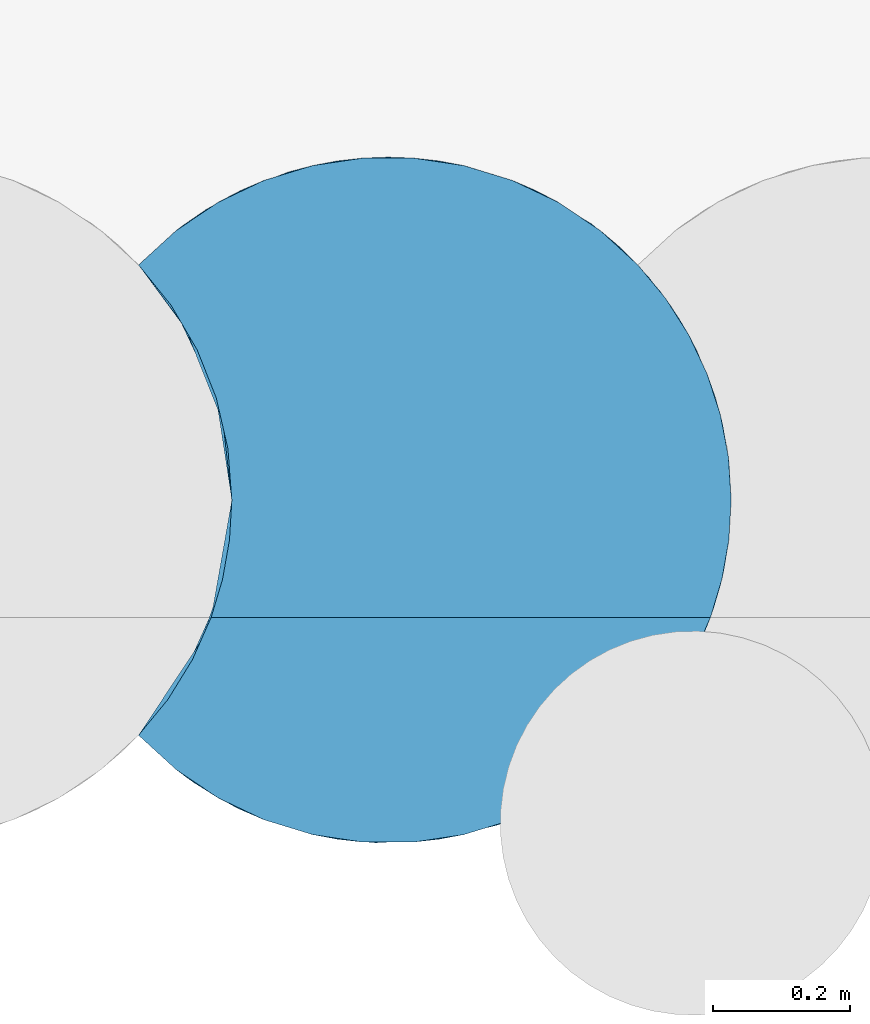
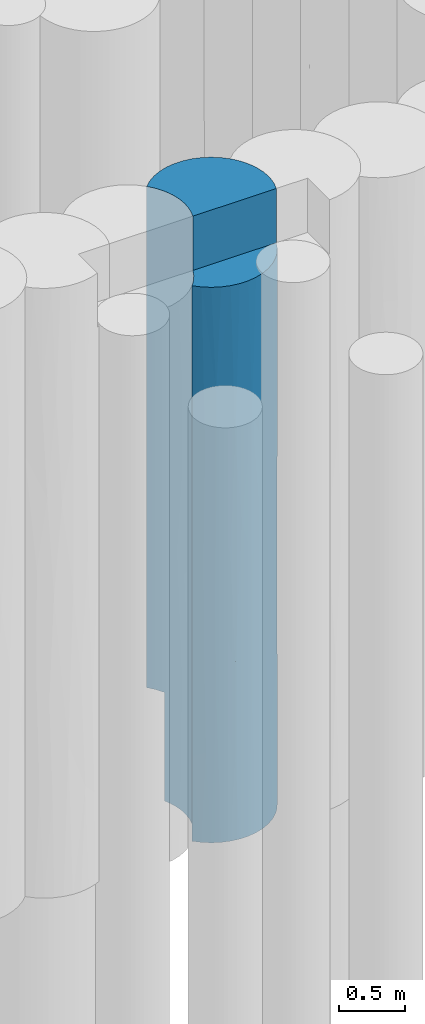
# One storey, part 48 of 104: 1 pile.
"""IFC2X3 building model written with IfcOpenShell, lengths in millimetres."""

from ifc_helpers import new_model, entity, si_unit, converted_unit, derived_unit, direction, frame, origin, place, context, subcontext, project, spatial, faceted_brep, source, transform, mapped, material, element, save


model = new_model("IFC2X3")

# Units and contexts
model_context = context("Model", 3, precision=0.01, world=origin(), true_north=direction((6.12303176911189e-17, 1.0)))
body_context = subcontext(model_context, "Body", "Model", "MODEL_VIEW")
ifc_project = project(units=[si_unit("LENGTHUNIT", "METRE", prefix="MILLI"), si_unit("AREAUNIT", "SQUARE_METRE", prefix="MILLI"), si_unit("VOLUMEUNIT", "CUBIC_METRE"), converted_unit("PLANEANGLEUNIT", "DEGREE", entity("IfcRatioMeasure", 0.0174532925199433), si_unit("PLANEANGLEUNIT", "RADIAN"), dimensions=[0, 0, 0, 0, 0, 0, 0]), si_unit("MASSUNIT", "GRAM", prefix="KILO"), derived_unit("MASSDENSITYUNIT", [(si_unit("MASSUNIT", "GRAM", prefix="KILO"), 1), (si_unit("LENGTHUNIT", "METRE"), -3)]), derived_unit("MOMENTOFINERTIAUNIT", [(si_unit("LENGTHUNIT", "METRE"), 4)]), si_unit("TIMEUNIT", "SECOND"), si_unit("FREQUENCYUNIT", "HERTZ"), si_unit("THERMODYNAMICTEMPERATUREUNIT", "DEGREE_CELSIUS"), derived_unit("THERMALTRANSMITTANCEUNIT", [(si_unit("MASSUNIT", "GRAM", prefix="KILO"), 1), (si_unit("THERMODYNAMICTEMPERATUREUNIT", "KELVIN"), -1), (si_unit("TIMEUNIT", "SECOND"), -3)]), derived_unit("VOLUMETRICFLOWRATEUNIT", [(si_unit("LENGTHUNIT", "METRE"), 3), (si_unit("TIMEUNIT", "SECOND"), -1)]), si_unit("ELECTRICCURRENTUNIT", "AMPERE"), si_unit("ELECTRICVOLTAGEUNIT", "VOLT"), si_unit("POWERUNIT", "WATT"), si_unit("FORCEUNIT", "NEWTON", prefix="KILO"), si_unit("ILLUMINANCEUNIT", "LUX"), si_unit("LUMINOUSFLUXUNIT", "LUMEN"), si_unit("LUMINOUSINTENSITYUNIT", "CANDELA"), derived_unit("USERDEFINED", [(si_unit("MASSUNIT", "GRAM", prefix="KILO"), -1), (si_unit("LENGTHUNIT", "METRE"), -2), (si_unit("TIMEUNIT", "SECOND"), 3), (si_unit("LUMINOUSFLUXUNIT", "LUMEN"), 1)]), derived_unit("LINEARVELOCITYUNIT", [(si_unit("LENGTHUNIT", "METRE"), 1), (si_unit("TIMEUNIT", "SECOND"), -1)]), si_unit("PRESSUREUNIT", "PASCAL"), derived_unit("USERDEFINED", [(si_unit("LENGTHUNIT", "METRE"), -2), (si_unit("MASSUNIT", "GRAM", prefix="KILO"), 1), (si_unit("TIMEUNIT", "SECOND"), -2)]), derived_unit("LINEARFORCEUNIT", [(si_unit("MASSUNIT", "GRAM", prefix="KILO"), 1), (si_unit("LENGTHUNIT", "METRE"), 1), (si_unit("TIMEUNIT", "SECOND"), -2), (si_unit("LENGTHUNIT", "METRE"), -1)]), derived_unit("PLANARFORCEUNIT", [(si_unit("MASSUNIT", "GRAM", prefix="KILO"), 1), (si_unit("LENGTHUNIT", "METRE"), 1), (si_unit("TIMEUNIT", "SECOND"), -2), (si_unit("LENGTHUNIT", "METRE"), -2)])], contexts=[model_context])

# Site, building, storey
site_placement = place(None, origin())
site = spatial("IfcSite", under=ifc_project, at=site_placement, Name="Theater aan de Parade", CompositionType="ELEMENT")
building_placement = place(site_placement, origin())
building = spatial("IfcBuilding", under=site, at=building_placement, Name="Theater aan de Parade", CompositionType="ELEMENT")
storey_placement = place(building_placement, frame((0.0, 0.0, -5520.0)))
storey = spatial("IfcBuildingStorey", under=building, at=storey_placement, Name="-2 kelder", CompositionType="ELEMENT", Elevation=-5520.0)

# Pile
ifc_material = material(Name="00_PBT_MAT_grout")
shared_shape = source(origin(), body_context, "Body", "Brep", [
    faceted_brep([(852.778565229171, 612.70632621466, 0.0), (862.377155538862, 556.86035918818, 0.0), (865.595272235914, 500.223265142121, 0.0), (861.634305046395, 437.411817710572, 0.0), (849.822713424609, 375.628782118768, 0.0), (830.347523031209, 315.817881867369, 0.0), (803.517959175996, 258.927346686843, 0.0), (769.75586856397, 205.852389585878, 0.0), (729.594749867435, 157.434638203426, 0.0), (674.96319387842, 107.423711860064, 0.0), (613.550146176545, 66.0362311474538, 0.0), (546.698111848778, 34.174167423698, 0.0), (475.873547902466, 12.5361708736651, 0.0), (402.629961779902, 1.5967197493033, 0.0), (328.57387588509, 1.5957325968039, 0.0), (255.329632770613, 12.5333136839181, 0.0), (184.503810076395, 34.1697463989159, 0.0), (117.65002374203, 66.0307344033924, 0.0), (56.2348577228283, 107.417799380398, 0.0), (1.59527223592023, 157.434700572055, 0.0), (49.0404771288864, 216.123206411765, 0.0), (87.1123213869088, 281.283952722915, 0.0), (114.94346928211, 351.43247652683, 0.0), (131.899884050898, 424.970685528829, 0.0), (137.595272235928, 500.223265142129, 0.0), (134.377353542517, 556.858622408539, 0.0), (124.780071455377, 612.699802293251, 0.0), (108.920050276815, 667.115306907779, 0.0), (86.9917285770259, 719.410000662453, 0.0), (814.991728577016, 719.410000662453, 0.0), (836.917925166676, 667.121308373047, 0.0), (854.020876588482, 607.18320630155, 1094.02741643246), (814.991728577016, 719.410000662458, 1000.0), (841.026602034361, 655.029759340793, 4762.58295011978), (803.517959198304, 741.519183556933, 5620.0), (830.347522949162, 684.628648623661, 5620.0), (865.595272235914, 500.223265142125, 2810.0), (865.595272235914, 500.223265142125, 1561.53772500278), (851.888657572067, 616.493396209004, 2185.76883482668), (703.210170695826, 869.026980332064, 2200.60581933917), (746.362503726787, 824.285474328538, 3310.00690634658), (803.401066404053, 741.731208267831, 2328.06655431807), (841.026601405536, 655.029761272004, 3857.71264231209), (865.595272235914, 500.223265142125, 4215.0), (865.595272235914, 500.223265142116, 4058.46229407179), (476.571159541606, 987.752087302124, 4283.64346164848), (580.714838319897, 951.580742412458, 4088.45269383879), (439.453512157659, 994.738138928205, 3309.99801466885), (1.59527223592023, 843.011829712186, 5620.0), (56.2348580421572, 893.02873115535, 5620.0), (63.7853417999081, 898.85939733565, 4676.61157762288), (674.970941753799, 893.016716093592, 1000.0), (729.595272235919, 843.011829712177, 1000.0), (769.755868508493, 794.594140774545, 5620.0), (787.472388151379, 768.588126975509, 4395.38615293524), (328.567290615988, 998.850308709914, 1000.0), (291.740779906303, 994.738698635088, 2360.44460435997), (439.453512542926, 994.738138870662, 2129.89388414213), (580.720158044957, 951.578206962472, 2525.4490579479), (613.556610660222, 934.406607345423, 1000.0), (729.584965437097, 843.022773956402, 5620.0), (861.634305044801, 563.034712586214, 5620.0), (150.473767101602, 951.579818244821, 2319.63983707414), (117.637172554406, 934.408456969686, 1000.0), (65.2017430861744, 899.927815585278, 1974.73221121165), (841.063509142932, 654.916366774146, 2981.48445914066), (865.595272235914, 500.223265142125, 5620.0), (849.822713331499, 624.81774852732, 5620.0), (790.702617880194, 763.441320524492, 1000.0), (762.167438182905, 804.740123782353, 1000.0), (100.386739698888, 924.091681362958, 3418.67983370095), (1.59527223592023, 843.01182971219, 2561.54124861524), (1.59527223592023, 843.011829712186, 4123.0824972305), (806.389759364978, 736.232205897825, 3307.4586123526), (699.528820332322, 872.36354172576, 4401.38648641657), (546.702158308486, 966.270790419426, 1000.0), (475.874328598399, 987.91018287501, 1000.0), (56.2225002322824, 893.018998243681, 1000.0), (674.96319351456, 893.022818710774, 5620.0), (328.123378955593, 998.817145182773, 3417.58259392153), (402.627039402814, 998.850027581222, 1000.0), (613.550145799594, 934.410299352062, 5620.0), (184.491893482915, 966.272153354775, 1000.0), (255.319907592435, 987.91101765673, 1000.0), (219.515588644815, 978.408089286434, 3586.41160869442), (256.001465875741, 988.064630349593, 4554.82452433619), (1.59527223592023, 843.01182971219, 1000.0), (150.486217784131, 951.585752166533, 4517.65925043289), (661.854395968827, 903.001779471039, 3156.0116605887), (117.650024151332, 934.415796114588, 5620.0), (365.601936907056, 1000.22326509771, 4389.69419363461), (546.698111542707, 966.272362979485, 5620.0), (402.62996181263, 998.849810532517, 5620.0), (475.873547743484, 987.910359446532, 5620.0), (328.57387610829, 998.850797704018, 5620.0), (184.503810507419, 966.276784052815, 5620.0), (255.329633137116, 987.913216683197, 5620.0), (291.748976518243, 5.70660757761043, 774.08337180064), (841.026602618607, 345.416772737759, 1010.02142290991), (150.485100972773, 48.861310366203, 4145.26387772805), (117.647092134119, 66.0324085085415, 5120.0), (56.229007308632, 107.422407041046, 5120.0), (83.0034215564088, 87.7407249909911, 829.337331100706), (150.486217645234, 48.8607781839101, 1346.89053402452), (854.352548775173, 394.7892828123, 1949.23928743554), (439.454566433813, 5.7085488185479, 1257.3465579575), (291.748976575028, 5.70660756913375, 1619.76660494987), (439.454566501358, 5.70854882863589, 2559.99549723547), (255.333613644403, 12.5324136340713, 5120.0), (291.754069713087, 5.70584703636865, 3682.99093091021), (674.965752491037, 107.425727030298, 5120.0), (613.554899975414, 66.0389459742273, 5120.0), (580.720441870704, 48.8684585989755, 4345.93269797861), (439.461962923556, 5.70965359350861, 3862.64899357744), (525.805556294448, 26.5855714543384, 2832.72157236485), (402.637309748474, 1.59726556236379, 5120.0), (328.580076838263, 1.5952722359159, 5120.0), (703.20773540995, 131.417320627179, 3862.65422213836), (703.20098996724, 131.411145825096, 2559.99800972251), (776.029130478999, 214.664080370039, 2555.84058496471), (645.023985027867, 85.5913868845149, 917.282261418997), (817.82822557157, 286.950304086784, 1887.10515667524), (750.432965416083, 181.00554961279, 1275.95542338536), (802.833968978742, 257.690129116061, 1058.63057474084), (566.941456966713, 42.5555757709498, 803.350051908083), (862.218512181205, 442.211563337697, 5620.0), (855.316098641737, 399.359435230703, 4389.58676485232), (72.0920556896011, 95.4321314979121, 1704.53868026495), (150.48510099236, 48.8613103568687, 3112.74112823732), (77.7887233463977, 91.3621757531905, 3629.00250283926), (848.815628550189, 371.778384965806, 3434.2311469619), (1.5952722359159, 157.43470057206, 3558.46694432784), (1.5952722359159, 157.434700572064, 5120.0), (184.504650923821, 34.169419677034, 5120.0), (791.318947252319, 238.003219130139, 3541.50213652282), (475.880949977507, 12.5378447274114, 5120.0), (580.720441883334, 48.8684586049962, 3500.26643421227), (852.146979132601, 385.038906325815, 5620.0), (835.513167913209, 329.41000066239, 5120.0), (580.714839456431, 48.865788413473, 1619.76155256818), (1.5952722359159, 157.434700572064, 780.775586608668), (347.341985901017, 0.556558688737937, 2917.90397660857), (252.352925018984, 13.2159029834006, 2651.38722215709), (141.555113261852, 53.2266128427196, 2229.81524315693), (663.07376975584, 98.3444979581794, 1795.62758556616), (67.5321613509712, 98.7778990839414, 2615.12834831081), (772.580322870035, 209.769880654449, 5120.0), (729.595272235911, 157.434700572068, 5120.0), (546.70457887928, 34.1766805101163, 5120.0), (808.102210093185, 267.44094204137, 5120.0), (835.513167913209, 329.410000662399, 5620.0), (607.099132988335, 62.415219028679, 2560.0057283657), (1.59527223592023, 157.434700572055, 2777.69344056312), (1.59527223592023, 157.434700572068, 1996.93388865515), (114.94346928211, 649.014053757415, 5620.0), (131.899884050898, 575.475844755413, 5620.0), (137.595272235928, 500.223265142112, 5620.0), (134.21845969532, 442.21111402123, 5620.0), (124.147439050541, 385.040849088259, 5620.0), (107.513167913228, 329.410000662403, 5620.0), (49.0404771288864, 784.323323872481, 5620.0), (87.1123213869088, 719.162577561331, 5620.0), (137.595272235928, 500.223265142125, 1561.53772533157), (137.595272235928, 500.223265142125, 2810.0), (118.129955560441, 638.376868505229, 2185.76884068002), (124.811099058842, 612.565323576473, 4657.5864959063), (137.595272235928, 500.223265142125, 4215.0), (125.973811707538, 607.397899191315, 1095.37767137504), (69.3075384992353, 752.46227710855, 4657.58649237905), (102.353272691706, 684.6141570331, 3905.98762480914), (57.7018130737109, 771.351453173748, 3773.1375567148), (86.9917285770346, 719.410000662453, 1000.0), (129.799943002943, 588.169624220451, 3749.95709791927), (48.9622639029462, 784.436562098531, 1000.0), (114.521440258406, 650.361302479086, 3074.47446079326), (73.2384738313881, 745.610715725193, 2499.01518659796), (137.595272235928, 500.223265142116, 4058.46229404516), (125.144374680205, 389.336508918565, 2648.70045516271), (94.8629582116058, 297.970296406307, 3193.67103511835), (126.158348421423, 393.893022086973, 3687.84265532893), (60.1293406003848, 232.893953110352, 1836.98523631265), (65.6483038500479, 241.823183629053, 948.913262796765), (130.287474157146, 415.050533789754, 1847.36430398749), (44.5887880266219, 209.781742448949, 5120.0), (94.8629582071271, 297.97029639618, 4182.01427536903), (107.513167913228, 329.410000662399, 5120.0), (80.1120921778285, 267.459728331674, 5120.0), (102.353273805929, 315.832376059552, 1582.93816074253), (92.4691750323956, 292.642599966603, 2372.5403883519), (128.564853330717, 405.624795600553, 1015.22177140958)], [[[0, 1, 2, 3, 4, 5, 6, 7, 8, 9, 10, 11, 12, 13, 14, 15, 16, 17, 18, 19, 20, 21, 22, 23, 24, 25, 26, 27, 28, 29, 30]], [[31, 30, 32]], [[33, 34, 35]], [[36, 37, 38]], [[39, 40, 41]], [[41, 38, 32]], [[42, 33, 43, 44, 36]], [[45, 46, 47]], [[48, 49, 50]], [[51, 39, 52]], [[53, 34, 54]], [[55, 56, 57]], [[58, 39, 59]], [[47, 46, 58]], [[30, 29, 32]], [[38, 37, 31]], [[53, 54, 60]], [[43, 33, 61]], [[62, 63, 64]], [[65, 36, 38]], [[43, 61, 66]], [[2, 1, 31]], [[67, 33, 35]], [[1, 0, 31]], [[33, 54, 34]], [[68, 69, 41]], [[52, 39, 69]], [[69, 39, 41]], [[70, 71, 72]], [[73, 54, 42]], [[54, 74, 60]], [[75, 76, 57]], [[68, 41, 32]], [[64, 63, 77]], [[74, 78, 60]], [[79, 57, 56]], [[57, 76, 80]], [[40, 73, 41]], [[58, 75, 57]], [[74, 81, 78]], [[82, 62, 83]], [[54, 40, 74]], [[56, 83, 62]], [[79, 84, 85]], [[62, 82, 63]], [[38, 31, 32]], [[62, 84, 56]], [[86, 71, 64]], [[87, 84, 70]], [[39, 88, 40]], [[56, 55, 83]], [[89, 87, 50]], [[88, 39, 58]], [[90, 45, 47]], [[81, 46, 91]], [[46, 45, 91]], [[57, 80, 55]], [[84, 87, 85]], [[92, 93, 45]], [[79, 90, 47]], [[70, 84, 62]], [[92, 90, 94]], [[95, 87, 89]], [[85, 94, 90]], [[54, 33, 42]], [[33, 67, 61]], [[85, 90, 79]], [[89, 50, 49]], [[96, 85, 95]], [[58, 57, 47]], [[70, 62, 64]], [[59, 75, 58]], [[50, 70, 72]], [[59, 39, 51]], [[41, 73, 65]], [[88, 74, 40]], [[81, 74, 46]], [[95, 85, 87]], [[94, 85, 96]], [[31, 37, 2]], [[31, 0, 30]], [[58, 46, 88]], [[74, 88, 46]], [[92, 45, 90]], [[91, 45, 93]], [[57, 79, 47]], [[56, 84, 79]], [[54, 73, 40]], [[65, 73, 42]], [[36, 65, 42]], [[41, 65, 38]], [[86, 64, 77]], [[70, 64, 71]], [[70, 50, 87]], [[48, 50, 72]], [[16, 15, 97]], [[3, 98, 4]], [[99, 100, 101]], [[102, 17, 103]], [[16, 97, 103]], [[104, 98, 37]], [[13, 12, 105]], [[106, 97, 105, 107]], [[108, 99, 109]], [[110, 111, 112]], [[113, 107, 114]], [[13, 105, 97]], [[113, 115, 116]], [[117, 118, 119]], [[9, 120, 10]], [[121, 122, 123]], [[105, 12, 124]], [[66, 125, 126]], [[127, 102, 103]], [[128, 99, 129]], [[130, 121, 104]], [[109, 116, 108]], [[131, 101, 132]], [[133, 100, 99]], [[99, 108, 133]], [[98, 5, 4]], [[119, 134, 117]], [[115, 113, 135]], [[17, 16, 103]], [[112, 113, 136]], [[137, 138, 126]], [[124, 120, 139]], [[102, 140, 18]], [[8, 122, 120]], [[141, 113, 109]], [[124, 10, 120]], [[140, 19, 18]], [[5, 98, 123]], [[106, 142, 143]], [[121, 98, 104]], [[139, 107, 105]], [[3, 37, 98]], [[142, 109, 128]], [[144, 139, 120]], [[142, 141, 109]], [[122, 8, 7]], [[119, 122, 121]], [[128, 129, 145]], [[146, 147, 117]], [[123, 7, 6]], [[148, 112, 111]], [[110, 117, 147]], [[121, 123, 98]], [[138, 149, 134]], [[129, 101, 131]], [[146, 117, 134]], [[113, 116, 109]], [[125, 137, 126]], [[150, 138, 137]], [[130, 126, 134]], [[44, 130, 36]], [[114, 139, 151]], [[112, 135, 113]], [[15, 14, 97]], [[143, 128, 145]], [[149, 146, 134]], [[117, 110, 112]], [[139, 144, 151]], [[136, 151, 117]], [[12, 11, 124]], [[3, 2, 37]], [[109, 99, 128]], [[8, 120, 9]], [[144, 122, 118]], [[97, 14, 13]], [[103, 97, 106]], [[112, 148, 135]], [[117, 112, 136]], [[126, 130, 44]], [[130, 134, 119]], [[37, 36, 104]], [[130, 104, 36]], [[122, 144, 120]], [[118, 117, 151]], [[118, 151, 144]], [[114, 151, 136]], [[101, 129, 99]], [[145, 131, 152, 153]], [[131, 145, 129]], [[127, 145, 153]], [[140, 127, 153]], [[143, 127, 103]], [[140, 102, 127]], [[17, 102, 18]], [[113, 114, 136]], [[139, 114, 107]], [[127, 143, 145]], [[106, 143, 103]], [[105, 124, 139]], [[10, 124, 11]], [[7, 123, 122]], [[5, 123, 6]], [[122, 119, 118]], [[130, 119, 121]], [[143, 142, 128]], [[141, 106, 107]], [[106, 141, 142]], [[113, 141, 107]], [[126, 44, 43, 66]], [[134, 126, 138]], [[154, 155, 156, 157, 158, 159, 150, 137, 125, 66, 61, 67, 35, 34, 53, 60, 78, 81, 91, 93, 92, 94, 96, 95, 89, 49, 48, 160, 161]], [[162, 163, 164]], [[165, 154, 161]], [[156, 165, 166]], [[24, 167, 25]], [[72, 168, 48]], [[167, 26, 25]], [[167, 27, 26]], [[155, 154, 165]], [[165, 168, 169]], [[168, 72, 170]], [[167, 171, 27]], [[172, 165, 169]], [[71, 86, 173]], [[169, 174, 172]], [[48, 168, 160]], [[162, 164, 167]], [[160, 168, 161]], [[175, 71, 173]], [[166, 165, 172]], [[169, 168, 170]], [[161, 168, 165]], [[175, 174, 170]], [[175, 173, 171]], [[28, 27, 171]], [[172, 163, 176, 166]], [[155, 165, 156]], [[164, 163, 174]], [[172, 174, 163]], [[164, 174, 175]], [[164, 175, 171]], [[170, 72, 71]], [[169, 170, 174]], [[175, 170, 71]], [[171, 167, 164]], [[24, 162, 167]], [[177, 178, 179]], [[140, 180, 181]], [[181, 22, 21]], [[163, 182, 177]], [[183, 131, 132]], [[20, 140, 181]], [[177, 179, 163]], [[183, 184, 131]], [[131, 184, 178, 152]], [[185, 184, 186]], [[187, 22, 181]], [[176, 179, 185]], [[157, 176, 185]], [[188, 180, 152]], [[183, 186, 184]], [[189, 162, 24]], [[185, 158, 157]], [[159, 158, 185]], [[20, 19, 140]], [[185, 179, 184]], [[179, 176, 163]], [[157, 156, 166, 176]], [[140, 153, 152, 180]], [[189, 24, 23]], [[178, 184, 179]], [[189, 23, 22]], [[178, 177, 188]], [[182, 189, 187]], [[20, 181, 21]], [[180, 187, 181]], [[180, 188, 187]], [[187, 188, 177]], [[178, 188, 152]], [[162, 189, 182]], [[187, 189, 22]], [[162, 182, 163]], [[177, 182, 187]], [[101, 100, 133, 108, 116, 115, 135, 148, 111, 110, 147, 146, 149, 138, 185, 186, 183, 132]], [[138, 150, 159, 185]], [[83, 55, 80, 76, 75, 59, 51, 52, 69, 68, 32, 171, 173, 86, 77, 63, 82]], [[32, 29, 28, 171]]]),
])
pile_placement = place(storey_placement, frame((38856.2628578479, 37980.5899993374, -3840.0)))
element("IfcPile", 1, at=pile_placement, inside=storey, material=ifc_material, Name="17_PBT_SFO_grondkering_rond:Ø1000 (grondkering)", ObjectType="17_PBT_SFO_grondkering_rond:Ø1000 (grondkering)", PredefinedType="NOTDEFINED", context=body_context, shape_type="MappedRepresentation", body=[
    mapped(shared_shape, transform((0.0, 0.0, 0.0), scale=1.0)),
])

save(model, "model.ifc")
